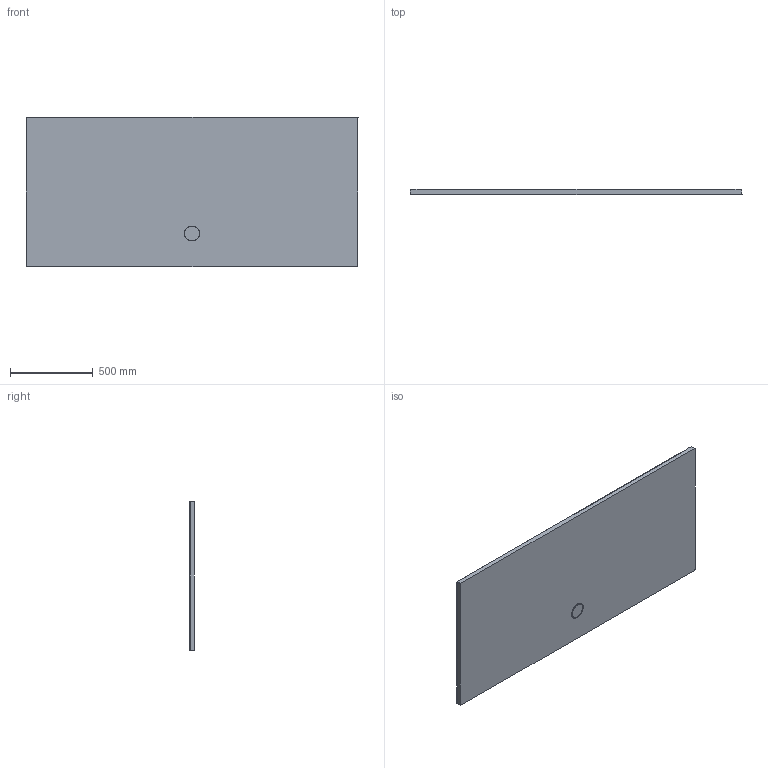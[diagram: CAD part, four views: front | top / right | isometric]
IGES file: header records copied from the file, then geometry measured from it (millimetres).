
Start section: SolidWorks IGES file using analytic representation for surfaces
Global section: file name: D:\Users\M.Szymanski\Desktop\B-M_Space\B_M_90x200x1,5.IGS; native system: SolidWorks 2011; preprocessor: SolidWorks 2011; author: M.Szymanski; date: 180216.070005; units: millimetre
Bounding box: 2000 x 30 x 900 mm (x, y, z)
Surface area: 3786494.9 mm2 (no closed solid volume)
Topology: 0 solids, 0 shells, 61 faces, 727 edges, 724 vertices
Faces by surface type: bspline 39, revolution 22
